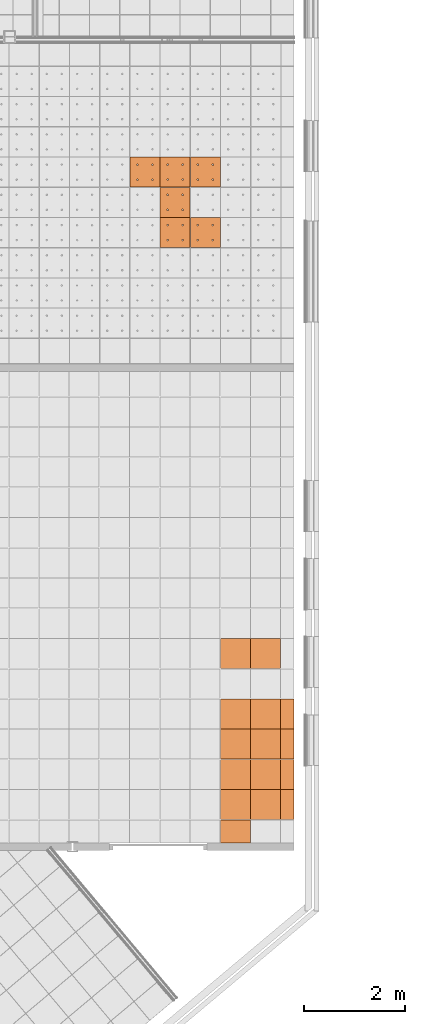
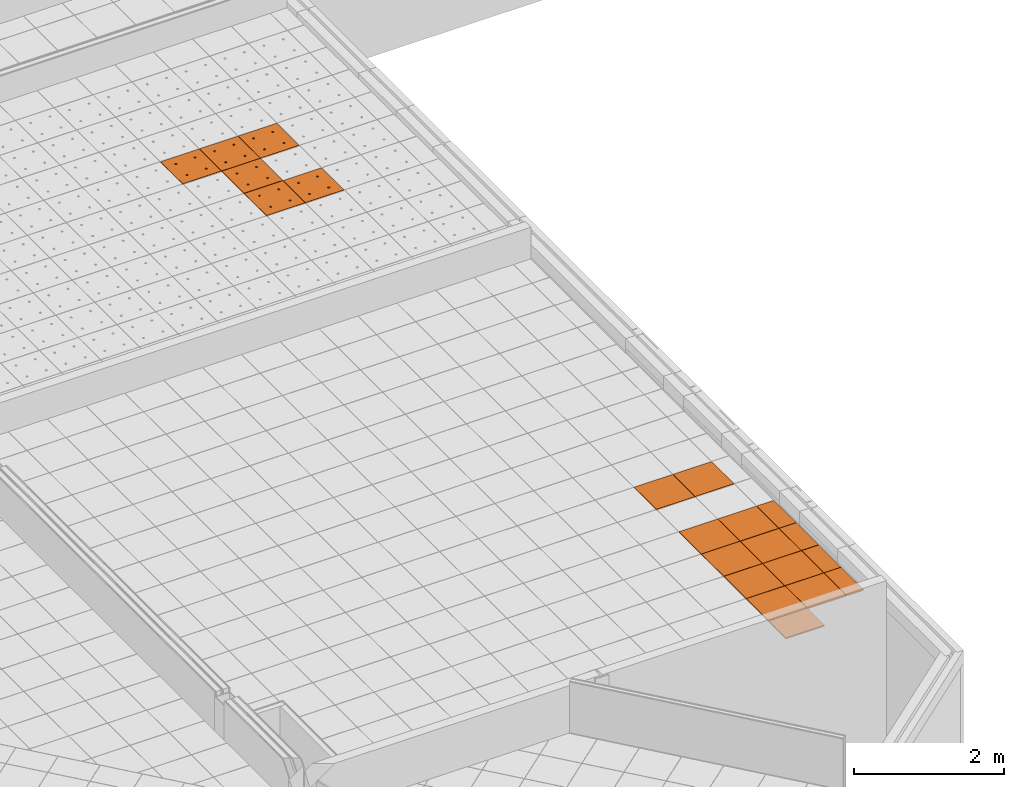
# One storey, part 223 of 338: 21 proxies, 2 elements without a shape of their own.
"""IFC2X3 building model written with IfcOpenShell, lengths in millimetres."""

import ifcopenshell
import ifcopenshell.guid

model = None  # the IFC model being written
_history = None  # IfcOwnerHistory: only IFC2X3 demands one
_inside = {}  # id of a spatial element -> (the spatial element, [elements in it])
_under = {}  # id of a project, library or spatial element -> (it, [spatial elements below it])
_declared = {}  # id of a project -> (the project, [libraries it declares])
_typed = {}  # id of a type object -> (the type object, [elements of that type])
_made_of = {}  # id of a material, layer set ... -> (it, [elements and type objects made of it])


def new_model(schema):
    """Start an empty IFC model of exactly this schema.

    Asked for "IFC4X3", IfcOpenShell would pick the latest addendum, in which some entities
    have other attributes; the version numbers below select the first issue.
    IFC2X3 requires an IfcOwnerHistory on every rooted entity: one is made here for all.
    """
    global model, _history
    if schema == "IFC4X3":
        model = ifcopenshell.file(schema_version=(4, 3, 0, 0))
    else:
        model = ifcopenshell.file(schema=schema)
    _inside.clear()
    _under.clear()
    _declared.clear()
    _typed.clear()
    _made_of.clear()
    _history = None
    if model.schema == "IFC2X3":
        org = make("IfcOrganization", Name="unknown")
        user = make(
            "IfcPersonAndOrganization",
            ThePerson=make("IfcPerson", FamilyName="unknown"),
            TheOrganization=org,
        )
        app = make(
            "IfcApplication",
            ApplicationDeveloper=org,
            Version="unknown",
            ApplicationFullName="unknown",
            ApplicationIdentifier="unknown",
        )
        _history = make(
            "IfcOwnerHistory",
            OwningUser=user,
            OwningApplication=app,
            ChangeAction="ADDED",
            CreationDate=0,
        )
    return model


def make(cls, **values):
    """One entity of the class cls with the attributes given. An attribute that is None is left unset."""
    return model.create_entity(
        cls, **{name: value for name, value in values.items() if value is not None}
    )


def entity(cls, *values):
    """Any entity or typed value of the class cls, its attributes in the order of the schema. None: left unset."""
    e = model.create_entity(cls)
    for i, value in enumerate(values):
        if value is not None:
            e[i] = value
    return e


def rooted(cls, **values):
    """An entity with a GlobalId (a new one), such as an element, a storey or a relation."""
    return make(cls, GlobalId=ifcopenshell.guid.new(), OwnerHistory=_history, **values)


def si_unit(unit_type, name, prefix=None):
    """IfcSIUnit, for example si_unit("LENGTHUNIT", "METRE", prefix="MILLI")."""
    return make("IfcSIUnit", UnitType=unit_type, Prefix=prefix, Name=name)


def converted_unit(unit_type, name, factor, base, dimensions=None, offset=None):
    """IfcConversionBasedUnit, such as the inch: factor (a typed value) times the base unit."""
    return make(
        "IfcConversionBasedUnit"
        if offset is None
        else "IfcConversionBasedUnitWithOffset",
        ConversionOffset=offset,
        Dimensions=None
        if dimensions is None
        else entity("IfcDimensionalExponents", *dimensions),
        UnitType=unit_type,
        Name=name,
        ConversionFactor=make(
            "IfcMeasureWithUnit", ValueComponent=factor, UnitComponent=base
        ),
    )


def derived_unit(unit_type, elements):
    """IfcDerivedUnit: a product of units, each with its exponent."""
    return make(
        "IfcDerivedUnit",
        Elements=[
            make("IfcDerivedUnitElement", Unit=unit, Exponent=power)
            for unit, power in elements
        ],
        UnitType=unit_type,
    )


def money_unit(currency):
    """IfcMonetaryUnit."""
    return make("IfcMonetaryUnit", Currency=currency)


def assignment(units):
    """IfcUnitAssignment: the units of a project."""
    return None if units is None else make("IfcUnitAssignment", Units=units)


def point(xyz):
    """IfcCartesianPoint."""
    return None if xyz is None else make("IfcCartesianPoint", Coordinates=xyz)


def direction(xyz):
    """IfcDirection."""
    return None if xyz is None else make("IfcDirection", DirectionRatios=xyz)


def frame(location, z_axis=None, x_axis=None):
    """IfcAxis2Placement3D, a coordinate frame: its origin and axes. An axis left out is left unset."""
    return make(
        "IfcAxis2Placement3D",
        Location=point(location),
        Axis=direction(z_axis),
        RefDirection=direction(x_axis),
    )


def origin_with_axes():
    """The frame at (0, 0, 0) with the z axis (0, 0, 1) and the x axis (1, 0, 0) written out."""
    return frame((0.0, 0.0, 0.0), z_axis=(0.0, 0.0, 1.0), x_axis=(1.0, 0.0, 0.0))


def place(relative_to, where):
    """IfcLocalPlacement: puts the frame where relative to a parent placement (None: the world)."""
    return make(
        "IfcLocalPlacement", PlacementRelTo=relative_to, RelativePlacement=where
    )


def context(
    kind, dimensions, precision=None, world=None, true_north=None, identifier=None
):
    """IfcGeometricRepresentationContext, for example the 3D "Model" context."""
    return make(
        "IfcGeometricRepresentationContext",
        ContextIdentifier=identifier,
        ContextType=kind,
        CoordinateSpaceDimension=dimensions,
        Precision=precision,
        WorldCoordinateSystem=world,
        TrueNorth=true_north,
    )


def subcontext(parent, identifier, kind, view, scale=None):
    """IfcGeometricRepresentationSubContext, for example "Body" below "Model"."""
    return make(
        "IfcGeometricRepresentationSubContext",
        ContextIdentifier=identifier,
        ContextType=kind,
        ParentContext=parent,
        TargetScale=scale,
        TargetView=view,
    )


def project(units=None, contexts=None):
    """IfcProject with its units and contexts."""
    return rooted(
        "IfcProject",
        Name="project",
        RepresentationContexts=contexts,
        UnitsInContext=assignment(units),
    )


def spatial(cls, under=None, at=None, **own):
    """A site, building, storey or space (cls), placed at a placement, below another one or the project."""
    s = rooted(cls, ObjectPlacement=at, **own)
    if under is not None:
        _under.setdefault(under.id(), (under, []))[1].append(s)
    return s


def faces_of(points, faces, orient=None, outer=None):
    """IfcFace entities. A face is a list of loops; a loop is a list of indices into points, from 0.

    orient and outer hold one flag for each loop. By default every Orientation is true, the
    first loop of a face is its IfcFaceOuterBound and the others are IfcFaceBound.
    """
    made = []
    for i, loops in enumerate(faces):
        bounds = []
        for j, loop in enumerate(loops):
            is_outer = j == 0 if outer is None else outer[i][j]
            bounds.append(
                make(
                    "IfcFaceOuterBound" if is_outer else "IfcFaceBound",
                    Bound=make("IfcPolyLoop", Polygon=[points[k] for k in loop]),
                    Orientation=True if orient is None else orient[i][j],
                )
            )
        made.append(make("IfcFace", Bounds=bounds))
    return made


def faceted_brep(points, faces, orient=None, outer=None, voids=None):
    """IfcFacetedBrep: a solid bounded by flat faces; with voids (closed shells), ...WithVoids."""
    shared = [point(p) for p in points]
    hull = make("IfcClosedShell", CfsFaces=faces_of(shared, faces, orient, outer))
    if voids is None:
        return make("IfcFacetedBrep", Outer=hull)
    return make(
        "IfcFacetedBrepWithVoids",
        Outer=hull,
        Voids=[
            make(cls, CfsFaces=faces_of(shared, fs, o, b)) for cls, fs, o, b in voids
        ],
    )


def shape(context_of_items, identifier, shape_type, items):
    """IfcShapeRepresentation: the items that make up one representation, for example the "Body"."""
    return make(
        "IfcShapeRepresentation",
        ContextOfItems=context_of_items,
        RepresentationIdentifier=identifier,
        RepresentationType=shape_type,
        Items=items,
    )


def source(mapping_origin, context_of_items, identifier, shape_type, items):
    """IfcRepresentationMap: a shape defined once, which mapped items show again and again."""
    return make(
        "IfcRepresentationMap",
        MappingOrigin=mapping_origin,
        MappedRepresentation=shape(context_of_items, identifier, shape_type, items),
    )


def transform(
    local_origin,
    x_axis=None,
    y_axis=None,
    z_axis=None,
    scale=None,
    scale2=None,
    scale3=None,
    uniform=True,
):
    """IfcCartesianTransformationOperator3D, or its non-uniform kind. x_axis, y_axis, z_axis: its Axis1, 2, 3."""
    if uniform:
        return make(
            "IfcCartesianTransformationOperator3D",
            Axis1=direction(x_axis),
            Axis2=direction(y_axis),
            LocalOrigin=point(local_origin),
            Scale=scale,
            Axis3=direction(z_axis),
        )
    return make(
        "IfcCartesianTransformationOperator3DnonUniform",
        Axis1=direction(x_axis),
        Axis2=direction(y_axis),
        LocalOrigin=point(local_origin),
        Scale=scale,
        Axis3=direction(z_axis),
        Scale2=scale2,
        Scale3=scale3,
    )


def mapped(mapping_source, mapping_target):
    """IfcMappedItem: shows the shape of a source again, moved by a transform."""
    return make(
        "IfcMappedItem", MappingSource=mapping_source, MappingTarget=mapping_target
    )


def material(Name=None, Category=None):
    """IfcMaterial."""
    return make("IfcMaterial", Name=Name, Category=Category)


def made_of(thing, what):
    """Note that an element or type object is made of a material, layer set ...; save() writes the relation."""
    if what is not None:
        _made_of.setdefault(what.id(), (what, []))[1].append(thing)
    return thing


def type_object(cls, material=None, **own):
    """A type object (cls), such as IfcWallType, which elements share."""
    return made_of(rooted(cls, **own), material)


def type_shapes(of_type, sources):
    """Give a type object the sources (RepresentationMaps) that its elements show as mapped items."""
    of_type.RepresentationMaps = sources


def element(
    cls,
    number,
    at=None,
    inside=None,
    cuts=None,
    type_object=None,
    material=None,
    context=None,
    identifier="Body",
    shape_type=None,
    held_by="IfcProductDefinitionShape",
    body=None,
    shapes=None,
    **own,
):
    """One element of the class cls, such as IfcWall. Its Tag is "e" and its number.

    at: its placement. inside: the storey or other place that contains it. cuts: it is an
    opening in that element (IfcRelVoidsElement). A single representation is given by context,
    identifier, shape_type and body (its items); several are given by shapes. held_by: the class
    of the entity that holds the representations. save() writes the other relations.
    """
    e = rooted(cls, Tag="e%d" % number, ObjectPlacement=at, **own)
    if body is not None:
        shapes = [shape(context, identifier, shape_type, body)]
    if shapes is not None:
        e.Representation = make(held_by, Representations=shapes)
    if inside is not None:
        _inside.setdefault(inside.id(), (inside, []))[1].append(e)
    if cuts is not None:
        rooted(
            "IfcRelVoidsElement", RelatingBuildingElement=cuts, RelatedOpeningElement=e
        )
    if type_object is not None:
        _typed.setdefault(type_object.id(), (type_object, []))[1].append(e)
    return made_of(e, material)


def aggregate(whole, parts):
    """IfcRelAggregates: a whole, such as a stair, and the parts it consists of."""
    return rooted("IfcRelAggregates", RelatingObject=whole, RelatedObjects=parts)


def save(model, path):
    """Write the relations noted so far, then the file.

    IfcRelAggregates (storeys below a building ...), IfcRelContainedInSpatialStructure (elements
    in a storey), IfcRelDefinesByType, IfcRelAssociatesMaterial and IfcRelDeclares: one each for
    every whole, place, type object, material and project.
    """
    for whole, parts in _under.values():
        aggregate(whole, parts)
    for where, things in _inside.values():
        rooted(
            "IfcRelContainedInSpatialStructure",
            RelatedElements=things,
            RelatingStructure=where,
        )
    for kind, things in _typed.values():
        rooted("IfcRelDefinesByType", RelatedObjects=things, RelatingType=kind)
    for what, things in _made_of.values():
        rooted("IfcRelAssociatesMaterial", RelatedObjects=things, RelatingMaterial=what)
    for by, libraries in _declared.values():
        rooted("IfcRelDeclares", RelatingContext=by, RelatedDefinitions=libraries)
    model.write(path)


model = new_model("IFC2X3")

# Units and contexts
model_context = context("Model", 3, precision=0.01, world=origin_with_axes(), true_north=direction((0.0, 1.0)))
plan_context = context("Plan", 3, precision=0.01, world=origin_with_axes(), true_north=direction((0.0, 1.0)))
body_context = subcontext(model_context, "Body", "Model", "MODEL_VIEW")
ifc_project = project(units=[si_unit("LENGTHUNIT", "METRE", prefix="MILLI"), si_unit("AREAUNIT", "SQUARE_METRE"), si_unit("VOLUMEUNIT", "CUBIC_METRE"), converted_unit("PLANEANGLEUNIT", "DEGREE", entity("IfcPlaneAngleMeasure", 0.0174532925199), si_unit("PLANEANGLEUNIT", "RADIAN"), dimensions=[0, 0, 0, 0, 0, 0, 0]), money_unit("EUR"), converted_unit("TIMEUNIT", "Year", entity("IfcTimeMeasure", 31556926.0), si_unit("TIMEUNIT", "SECOND"), dimensions=[0, 0, 1, 0, 0, 0, 0]), si_unit("MASSUNIT", "GRAM", prefix="KILO"), si_unit("THERMODYNAMICTEMPERATUREUNIT", "DEGREE_CELSIUS"), si_unit("LUMINOUSINTENSITYUNIT", "LUMEN"), si_unit("ENERGYUNIT", "JOULE", prefix="MEGA"), derived_unit("THERMALCONDUCTANCEUNIT", [(si_unit("POWERUNIT", "WATT"), 1), (si_unit("LENGTHUNIT", "METRE"), -1), (si_unit("THERMODYNAMICTEMPERATUREUNIT", "KELVIN"), -1)]), derived_unit("SPECIFICHEATCAPACITYUNIT", [(si_unit("ENERGYUNIT", "JOULE"), 1), (si_unit("MASSUNIT", "GRAM", prefix="KILO"), -1), (si_unit("THERMODYNAMICTEMPERATUREUNIT", "KELVIN"), -1)]), derived_unit("MASSDENSITYUNIT", [(si_unit("MASSUNIT", "GRAM", prefix="KILO"), 1), (si_unit("VOLUMEUNIT", "CUBIC_METRE"), -1)])], contexts=[model_context, plan_context])

# Site, building, storey
site_placement = place(None, origin_with_axes())
site = spatial("IfcSite", under=ifc_project, at=site_placement, Name="Fortuinstraat Woensdrecht", CompositionType="ELEMENT")
building_placement = place(site_placement, origin_with_axes())
building = spatial("IfcBuilding", under=site, at=building_placement, Name="IKC Fortuna", CompositionType="ELEMENT")
storey_placement = place(building_placement, origin_with_axes())
storey = spatial("IfcBuildingStorey", under=building, at=storey_placement, Name="00 begane grond", CompositionType="ELEMENT", Elevation=0.0)

# Covering, proxies
covering_type = type_object("IfcCoveringType", Name="Curtain Wall Type", PredefinedType="CEILING")
covering_1_placement = place(storey_placement, frame((34484.9342671, 3789.29664615, 3065.0), z_axis=(0.0, 0.0, 1.0), x_axis=(1.0, 0.0, 0.0)))
covering_1 = element("IfcCovering", 1, at=covering_1_placement, inside=storey, type_object=covering_type, Name="45_Plafondafwerking_P02 gec", PredefinedType="CEILING")
ifc_material = material(Name="Gipsplaat")
building_element_proxy_type_1 = type_object("IfcBuildingElementProxyType", Name="Distinct Panel 600 x 600 x 20", PredefinedType="NOTDEFINED")
shared_shape_1 = source(origin_with_axes(), body_context, "Body", "Brep", [
    faceted_brep([(-2.49999999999, 2.5, -10.0), (-2.49999999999, 2.5, 10.0), (-597.5, 2.49999999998, 10.0), (-597.5, 2.49999999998, -10.0), (-2.50000000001, 597.5, -10.0), (-2.50000000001, 597.5, 10.0), (-597.5, 597.5, 10.0), (-597.5, 597.5, -10.0)], [[[0, 1, 2, 3]], [[4, 5, 1, 0]], [[1, 5, 6, 2]], [[3, 2, 6, 7]], [[0, 3, 7, 4]], [[7, 6, 5, 4]]]),
])
proxy_1_placement = place(covering_1_placement, frame((-1034.49272604, -1200.0, 2.54019028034e-10), z_axis=(0.0, 0.0, 1.0), x_axis=(1.0, 0.0, 0.0)))
proxy_1 = element("IfcBuildingElementProxy", 2, at=proxy_1_placement, type_object=building_element_proxy_type_1, material=ifc_material, Name="__Panel-D", context=body_context, shape_type="MappedRepresentation", body=[
    mapped(shared_shape_1, transform((-300.0, 300.0, 0.0), x_axis=(-1.0, 0.0, 0.0), y_axis=(0.0, -1.0, 0.0), z_axis=(0.0, 0.0, 1.0))),
])
proxy_2_placement = place(covering_1_placement, frame((-1034.49272604, -600.0, 2.54019028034e-10), z_axis=(0.0, 0.0, 1.0), x_axis=(1.0, 0.0, 0.0)))
proxy_2 = element("IfcBuildingElementProxy", 3, at=proxy_2_placement, type_object=building_element_proxy_type_1, material=ifc_material, Name="__Panel-D", context=body_context, shape_type="MappedRepresentation", body=[
    mapped(shared_shape_1, transform((-300.0, 300.0, 0.0), x_axis=(-1.0, 0.0, 0.0), y_axis=(0.0, -1.0, 0.0), z_axis=(0.0, 0.0, 1.0))),
])
proxy_3_placement = place(covering_1_placement, frame((-1034.49272604, 1800.0, 2.54019028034e-10), z_axis=(0.0, 0.0, 1.0), x_axis=(1.0, 0.0, 0.0)))
proxy_3 = element("IfcBuildingElementProxy", 4, at=proxy_3_placement, type_object=building_element_proxy_type_1, material=ifc_material, Name="__Panel-D", context=body_context, shape_type="MappedRepresentation", body=[
    mapped(shared_shape_1, transform((-300.0, 300.0, 0.0), x_axis=(-1.0, 0.0, 0.0), y_axis=(0.0, -1.0, 0.0), z_axis=(0.0, 0.0, 1.0))),
])
proxy_4_placement = place(covering_1_placement, frame((-1034.49272604, 600.0, 2.54019028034e-10), z_axis=(0.0, 0.0, 1.0), x_axis=(1.0, 0.0, 0.0)))
proxy_4 = element("IfcBuildingElementProxy", 5, at=proxy_4_placement, type_object=building_element_proxy_type_1, material=ifc_material, Name="__Panel-D", context=body_context, shape_type="MappedRepresentation", body=[
    mapped(shared_shape_1, transform((-300.0, 300.0, 0.0), x_axis=(-1.0, 0.0, 0.0), y_axis=(0.0, -1.0, 0.0), z_axis=(0.0, 0.0, 1.0))),
])
proxy_5_placement = place(covering_1_placement, frame((-1034.49272604, 0.0, 2.54019028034e-10), z_axis=(0.0, 0.0, 1.0), x_axis=(1.0, 0.0, 0.0)))
proxy_5 = element("IfcBuildingElementProxy", 6, at=proxy_5_placement, type_object=building_element_proxy_type_1, material=ifc_material, Name="__Panel-D", context=body_context, shape_type="MappedRepresentation", body=[
    mapped(shared_shape_1, transform((-300.0, 300.0, 0.0), x_axis=(-1.0, 0.0, 0.0), y_axis=(0.0, -1.0, 0.0), z_axis=(0.0, 0.0, 1.0))),
])
building_element_proxy_type_2 = type_object("IfcBuildingElementProxyType", Name="Distinct Panel 269 x 600 x 20", PredefinedType="NOTDEFINED")
shared_shape_2 = source(origin_with_axes(), body_context, "Body", "Brep", [
    faceted_brep([(-2.49999861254, 2.5, -10.0), (-2.49999861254, 2.5, 10.0), (-266.485452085, 2.49999999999, 10.0), (-266.485452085, 2.49999999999, -10.0), (-2.49999861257, 597.5, -10.0), (-2.49999861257, 597.5, 10.0), (-266.485452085, 597.5, 10.0), (-266.485452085, 597.5, -10.0)], [[[0, 1, 2, 3]], [[4, 5, 1, 0]], [[1, 5, 6, 2]], [[3, 2, 6, 7]], [[0, 3, 7, 4]], [[7, 6, 5, 4]]]),
])
type_shapes(building_element_proxy_type_2, [shared_shape_2])
proxy_6_placement = place(covering_1_placement, frame((0.0, 0.0, 2.87325718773e-10), z_axis=(0.0, 0.0, 1.0), x_axis=(1.0, 0.0, 0.0)))
proxy_6 = element("IfcBuildingElementProxy", 7, at=proxy_6_placement, type_object=building_element_proxy_type_2, material=ifc_material, Name="__Panel-D", context=body_context, shape_type="MappedRepresentation", body=[
    mapped(shared_shape_2, transform((-134.492726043, 300.0, 0.0), x_axis=(-1.0, 0.0, 0.0), y_axis=(0.0, -1.0, 0.0), z_axis=(0.0, 0.0, 1.0))),
])
proxy_7_placement = place(covering_1_placement, frame((9.42758049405e-06, -1200.0, 2.87325718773e-10), z_axis=(0.0, 0.0, 1.0), x_axis=(1.0, 0.0, 0.0)))
proxy_7 = element("IfcBuildingElementProxy", 8, at=proxy_7_placement, type_object=building_element_proxy_type_2, material=ifc_material, Name="__Panel-D", context=body_context, shape_type="MappedRepresentation", body=[
    mapped(shared_shape_2, transform((-134.49273547, 300.0, 0.0), x_axis=(-1.0, 0.0, 0.0), y_axis=(0.0, -1.0, 0.0), z_axis=(0.0, 0.0, 1.0))),
])
proxy_8_placement = place(covering_1_placement, frame((0.0, -600.0, 2.87325718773e-10), z_axis=(0.0, 0.0, 1.0), x_axis=(1.0, 0.0, 0.0)))
proxy_8 = element("IfcBuildingElementProxy", 9, at=proxy_8_placement, type_object=building_element_proxy_type_2, material=ifc_material, Name="__Panel-D", context=body_context, shape_type="MappedRepresentation", body=[
    mapped(shared_shape_2, transform((-134.492726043, 300.0, 0.0), x_axis=(-1.0, 0.0, 0.0), y_axis=(0.0, -1.0, 0.0), z_axis=(0.0, 0.0, 1.0))),
])
proxy_9_placement = place(covering_1_placement, frame((0.0, 600.0, 2.87325718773e-10), z_axis=(0.0, 0.0, 1.0), x_axis=(1.0, 0.0, 0.0)))
proxy_9 = element("IfcBuildingElementProxy", 10, at=proxy_9_placement, type_object=building_element_proxy_type_2, material=ifc_material, Name="__Panel-D", context=body_context, shape_type="MappedRepresentation", body=[
    mapped(shared_shape_2, transform((-134.492726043, 300.0, 0.0), x_axis=(-1.0, 0.0, 0.0), y_axis=(0.0, -1.0, 0.0), z_axis=(0.0, 0.0, 1.0))),
])
building_element_proxy_type_3 = type_object("IfcBuildingElementProxyType", Name="Distinct Panel 600 x 462 x 20", PredefinedType="NOTDEFINED")
shared_shape_3 = source(origin_with_axes(), body_context, "Body", "Brep", [
    faceted_brep([(-2.49999999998, 2.49999724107, -10.0), (-2.49999999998, 2.49999724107, 10.0), (-597.5, 2.49999724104, 10.0), (-597.5, 2.49999724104, -10.0), (-2.5, 459.49870978, -10.0), (-2.5, 459.49870978, 10.0), (-597.5, 459.499416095, 10.0), (-597.5, 459.499416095, -10.0)], [[[0, 1, 2, 3]], [[4, 5, 1, 0]], [[1, 5, 6, 2]], [[3, 2, 6, 7]], [[0, 3, 7, 4]], [[7, 6, 5, 4]]]),
])
type_shapes(building_element_proxy_type_3, [shared_shape_3])
proxy_10_placement = place(covering_1_placement, frame((-1034.49272604, -1730.99953104, 2.54019028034e-10), z_axis=(0.0, 0.0, 1.0), x_axis=(1.0, 0.0, 0.0)))
proxy_10 = element("IfcBuildingElementProxy", 11, at=proxy_10_placement, type_object=building_element_proxy_type_3, material=ifc_material, Name="__Panel-D", context=body_context, shape_type="MappedRepresentation", body=[
    mapped(shared_shape_3, transform((-300.0, 230.99953104, 0.0), x_axis=(-1.0, 0.0, 0.0), y_axis=(0.0, -1.0, 0.0), z_axis=(0.0, 0.0, 1.0))),
])
shared_shape_4 = source(origin_with_axes(), body_context, "Body", "Brep", [
    faceted_brep([(-2.50000185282, 2.50000514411, -10.0), (-2.50000185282, 2.50000514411, 10.0), (-597.499994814, 2.50000188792, 10.0), (-597.499994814, 2.50000188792, -10.0), (-2.50000510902, 597.499998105, -10.0), (-2.50000510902, 597.499998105, 10.0), (-597.49998844, 597.50000293, 10.0), (-597.49998844, 597.50000293, -10.0)], [[[0, 1, 2, 3]], [[4, 5, 1, 0]], [[1, 5, 6, 2]], [[3, 2, 6, 7]], [[0, 3, 7, 4]], [[7, 6, 5, 4]]]),
])
proxy_11_placement = place(covering_1_placement, frame((-434.492726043, -1200.0, 2.73558953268e-10), z_axis=(0.0, 0.0, 1.0), x_axis=(1.0, 0.0, 0.0)))
proxy_11 = element("IfcBuildingElementProxy", 12, at=proxy_11_placement, type_object=building_element_proxy_type_1, material=ifc_material, Name="__Panel-D", context=body_context, shape_type="MappedRepresentation", body=[
    mapped(shared_shape_4, transform((-300.0, 300.0, 0.0), x_axis=(-1.0, 0.0, 0.0), y_axis=(0.0, -1.0, 0.0), z_axis=(0.0, 0.0, 1.0))),
])
proxy_12_placement = place(covering_1_placement, frame((-434.492726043, -600.0, 2.73558953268e-10), z_axis=(0.0, 0.0, 1.0), x_axis=(1.0, 0.0, 0.0)))
proxy_12 = element("IfcBuildingElementProxy", 13, at=proxy_12_placement, type_object=building_element_proxy_type_1, material=ifc_material, Name="__Panel-D", context=body_context, shape_type="MappedRepresentation", body=[
    mapped(shared_shape_4, transform((-300.0, 300.0, 0.0), x_axis=(-1.0, 0.0, 0.0), y_axis=(0.0, -1.0, 0.0), z_axis=(0.0, 0.0, 1.0))),
])
shared_shape_5 = source(origin_with_axes(), body_context, "Body", "Brep", [
    faceted_brep([(-2.49999999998, 2.5, -10.0), (-2.49999999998, 2.5, 10.0), (-597.5, 2.49999999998, 10.0), (-597.5, 2.49999999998, -10.0), (-2.50000000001, 597.5, -10.0), (-2.50000000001, 597.5, 10.0), (-597.5, 597.5, 10.0), (-597.5, 597.5, -10.0)], [[[0, 1, 2, 3]], [[4, 5, 1, 0]], [[1, 5, 6, 2]], [[3, 2, 6, 7]], [[0, 3, 7, 4]], [[7, 6, 5, 4]]]),
])
type_shapes(building_element_proxy_type_1, [shared_shape_1, shared_shape_4, shared_shape_5])
proxy_13_placement = place(covering_1_placement, frame((-434.492726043, 1800.0, 2.73114864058e-10), z_axis=(0.0, 0.0, 1.0), x_axis=(1.0, 0.0, 0.0)))
proxy_13 = element("IfcBuildingElementProxy", 14, at=proxy_13_placement, type_object=building_element_proxy_type_1, material=ifc_material, Name="__Panel-D", context=body_context, shape_type="MappedRepresentation", body=[
    mapped(shared_shape_5, transform((-300.0, 300.0, 0.0), x_axis=(-1.0, 0.0, 0.0), y_axis=(0.0, -1.0, 0.0), z_axis=(0.0, 0.0, 1.0))),
])
proxy_14_placement = place(covering_1_placement, frame((-434.492726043, 600.0, 2.73114864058e-10), z_axis=(0.0, 0.0, 1.0), x_axis=(1.0, 0.0, 0.0)))
proxy_14 = element("IfcBuildingElementProxy", 15, at=proxy_14_placement, type_object=building_element_proxy_type_1, material=ifc_material, Name="__Panel-D", context=body_context, shape_type="MappedRepresentation", body=[
    mapped(shared_shape_5, transform((-300.0, 300.0, 0.0), x_axis=(-1.0, 0.0, 0.0), y_axis=(0.0, -1.0, 0.0), z_axis=(0.0, 0.0, 1.0))),
])
proxy_15_placement = place(covering_1_placement, frame((-434.492726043, 0.0, 2.73114864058e-10), z_axis=(0.0, 0.0, 1.0), x_axis=(1.0, 0.0, 0.0)))
proxy_15 = element("IfcBuildingElementProxy", 16, at=proxy_15_placement, type_object=building_element_proxy_type_1, material=ifc_material, Name="__Panel-D", context=body_context, shape_type="MappedRepresentation", body=[
    mapped(shared_shape_5, transform((-300.0, 300.0, 0.0), x_axis=(-1.0, 0.0, 0.0), y_axis=(0.0, -1.0, 0.0), z_axis=(0.0, 0.0, 1.0))),
])
aggregate(covering_1, [proxy_6, proxy_10, proxy_1, proxy_11, proxy_12, proxy_2, proxy_3, proxy_13, proxy_4, proxy_5, proxy_14, proxy_15, proxy_7, proxy_8, proxy_9])

covering_2_placement = place(storey_placement, frame((31656.9226967, 15748.5304598, 3210.0), z_axis=(0.0, 0.0, 1.0), x_axis=(1.0, 0.0, 0.0)))
covering_2 = element("IfcCovering", 17, at=covering_2_placement, inside=storey, type_object=covering_type, Name="45_Plafondafwerking_P01", PredefinedType="CEILING")
building_element_proxy_type_4 = type_object("IfcBuildingElementProxyType", Name="Main Panel 600 x 600 x 20", PredefinedType="NOTDEFINED")
shared_shape_6 = source(origin_with_axes(), body_context, "Body", "Brep", [
    faceted_brep([(2.49999999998, 2.49999999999, -10.0), (300.0, 2.49999999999, -10.0), (300.0, 2.49999999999, 10.0), (2.49999999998, 2.49999999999, 10.0), (2.49999999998, 300.0, -10.0), (2.49999999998, 597.5, -10.0), (300.0, 597.5, -10.0), (597.5, 597.5, -10.0), (597.5, 300.0, -10.0), (597.5, 2.49999999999, -10.0), (166.25, 450.06232995, -10.0), (165.79423259, 452.64711538, -10.0), (164.896546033, 455.11348892, -10.0), (163.58421608, 457.38651108, -10.0), (161.897117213, 459.39711721, -10.0), (159.886511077, 461.08421608, -10.0), (157.613488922, 462.39654603, -10.0), (155.147115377, 463.29423259, -10.0), (152.562329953, 463.75, -10.0), (149.937670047, 463.75, -10.0), (147.352884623, 463.29423259, -10.0), (144.886511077, 462.39654603, -10.0), (142.613488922, 461.08421608, -10.0), (140.602882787, 459.39711721, -10.0), (138.91578392, 457.38651108, -10.0), (137.603453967, 455.11348892, -10.0), (136.705767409, 452.64711538, -10.0), (136.25, 450.06232995, -10.0), (136.25, 448.75, -10.0), (136.25, 447.43767005, -10.0), (136.705767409, 444.85288462, -10.0), (137.603453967, 442.38651108, -10.0), (138.91578392, 440.11348892, -10.0), (140.602882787, 438.10288279, -10.0), (142.613488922, 436.41578392, -10.0), (144.886511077, 435.10345397, -10.0), (147.352884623, 434.20576741, -10.0), (149.937670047, 433.75, -10.0), (152.562329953, 433.75, -10.0), (155.147115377, 434.20576741, -10.0), (157.613488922, 435.10345397, -10.0), (159.886511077, 436.41578392, -10.0), (161.897117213, 438.10288279, -10.0), (163.58421608, 440.11348892, -10.0), (164.896546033, 442.38651108, -10.0), (165.79423259, 444.85288462, -10.0), (166.25, 447.43767005, -10.0), (463.75, 450.06232995, -10.0), (463.29423259, 452.64711538, -10.0), (462.396546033, 455.11348892, -10.0), (461.08421608, 457.38651108, -10.0), (459.397117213, 459.39711721, -10.0), (457.386511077, 461.08421608, -10.0), (455.113488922, 462.39654603, -10.0), (452.647115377, 463.29423259, -10.0), (450.062329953, 463.75, -10.0), (447.437670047, 463.75, -10.0), (444.852884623, 463.29423259, -10.0), (442.386511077, 462.39654603, -10.0), (440.113488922, 461.08421608, -10.0), (438.102882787, 459.39711721, -10.0), (436.41578392, 457.38651108, -10.0), (435.103453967, 455.11348892, -10.0), (434.205767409, 452.64711538, -10.0), (433.75, 450.06232995, -10.0), (433.75, 448.75, -10.0), (433.75, 447.43767005, -10.0), (434.205767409, 444.85288462, -10.0), (435.103453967, 442.38651108, -10.0), (436.41578392, 440.11348892, -10.0), (438.102882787, 438.10288279, -10.0), (440.113488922, 436.41578392, -10.0), (442.386511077, 435.10345397, -10.0), (444.852884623, 434.20576741, -10.0), (447.437670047, 433.75, -10.0), (450.062329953, 433.75, -10.0), (452.647115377, 434.20576741, -10.0), (455.113488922, 435.10345397, -10.0), (457.386511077, 436.41578392, -10.0), (459.397117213, 438.10288279, -10.0), (461.08421608, 440.11348892, -10.0), (462.396546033, 442.38651108, -10.0), (463.29423259, 444.85288462, -10.0), (463.75, 447.43767005, -10.0), (463.75, 152.56232995, -10.0), (463.29423259, 155.14711538, -10.0), (462.396546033, 157.61348892, -10.0), (461.08421608, 159.88651108, -10.0), (459.397117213, 161.89711721, -10.0), (457.386511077, 163.58421608, -10.0), (455.113488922, 164.89654603, -10.0), (452.647115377, 165.79423259, -10.0), (450.062329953, 166.25, -10.0), (447.437670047, 166.25, -10.0), (444.852884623, 165.79423259, -10.0), (442.386511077, 164.89654603, -10.0), (440.113488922, 163.58421608, -10.0), (438.102882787, 161.89711721, -10.0), (436.41578392, 159.88651108, -10.0), (435.103453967, 157.61348892, -10.0), (434.205767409, 155.14711538, -10.0), (433.75, 152.56232995, -10.0), (433.75, 151.25, -10.0), (433.75, 149.93767005, -10.0), (434.205767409, 147.35288462, -10.0), (435.103453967, 144.88651108, -10.0), (436.41578392, 142.61348892, -10.0), (438.102882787, 140.60288279, -10.0), (440.113488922, 138.91578392, -10.0), (442.386511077, 137.60345397, -10.0), (444.852884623, 136.70576741, -10.0), (447.437670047, 136.25, -10.0), (450.062329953, 136.25, -10.0), (452.647115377, 136.70576741, -10.0), (455.113488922, 137.60345397, -10.0), (457.386511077, 138.91578392, -10.0), (459.397117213, 140.60288279, -10.0), (461.08421608, 142.61348892, -10.0), (462.396546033, 144.88651108, -10.0), (463.29423259, 147.35288462, -10.0), (463.75, 149.93767005, -10.0), (166.25, 152.56232995, -10.0), (165.79423259, 155.14711538, -10.0), (164.896546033, 157.61348892, -10.0), (163.58421608, 159.88651108, -10.0), (161.897117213, 161.89711721, -10.0), (159.886511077, 163.58421608, -10.0), (157.613488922, 164.89654603, -10.0), (155.147115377, 165.79423259, -10.0), (152.562329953, 166.25, -10.0), (149.937670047, 166.25, -10.0), (147.352884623, 165.79423259, -10.0), (144.886511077, 164.89654603, -10.0), (142.613488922, 163.58421608, -10.0), (140.602882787, 161.89711721, -10.0), (138.91578392, 159.88651108, -10.0), (137.603453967, 157.61348892, -10.0), (136.705767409, 155.14711538, -10.0), (136.25, 152.56232995, -10.0), (136.25, 151.25, -10.0), (136.25, 149.93767005, -10.0), (136.705767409, 147.35288462, -10.0), (137.603453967, 144.88651108, -10.0), (138.91578392, 142.61348892, -10.0), (140.602882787, 140.60288279, -10.0), (142.613488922, 138.91578392, -10.0), (144.886511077, 137.60345397, -10.0), (147.352884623, 136.70576741, -10.0), (149.937670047, 136.25, -10.0), (152.562329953, 136.25, -10.0), (155.147115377, 136.70576741, -10.0), (157.613488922, 137.60345397, -10.0), (159.886511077, 138.91578392, -10.0), (161.897117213, 140.60288279, -10.0), (163.58421608, 142.61348892, -10.0), (164.896546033, 144.88651108, -10.0), (165.79423259, 147.35288462, -10.0), (166.25, 149.93767005, -10.0), (597.5, 2.49999999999, 10.0), (597.5, 300.0, 10.0), (597.5, 597.5, 10.0), (300.0, 597.5, 10.0), (2.49999999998, 597.5, 10.0), (2.49999999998, 300.0, 10.0), (166.25, 450.06232995, 10.0), (166.25, 447.43767005, 10.0), (165.79423259, 444.85288462, 10.0), (164.896546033, 442.38651108, 10.0), (163.58421608, 440.11348892, 10.0), (161.897117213, 438.10288279, 10.0), (159.886511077, 436.41578392, 10.0), (157.613488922, 435.10345397, 10.0), (155.147115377, 434.20576741, 10.0), (152.562329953, 433.75, 10.0), (149.937670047, 433.75, 10.0), (147.352884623, 434.20576741, 10.0), (144.886511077, 435.10345397, 10.0), (142.613488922, 436.41578392, 10.0), (140.602882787, 438.10288279, 10.0), (138.91578392, 440.11348892, 10.0), (137.603453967, 442.38651108, 10.0), (136.705767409, 444.85288462, 10.0), (136.25, 447.43767005, 10.0), (136.25, 448.75, 10.0), (136.25, 450.06232995, 10.0), (136.705767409, 452.64711538, 10.0), (137.603453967, 455.11348892, 10.0), (138.91578392, 457.38651108, 10.0), (140.602882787, 459.39711721, 10.0), (142.613488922, 461.08421608, 10.0), (144.886511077, 462.39654603, 10.0), (147.352884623, 463.29423259, 10.0), (149.937670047, 463.75, 10.0), (152.562329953, 463.75, 10.0), (155.147115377, 463.29423259, 10.0), (157.613488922, 462.39654603, 10.0), (159.886511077, 461.08421608, 10.0), (161.897117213, 459.39711721, 10.0), (163.58421608, 457.38651108, 10.0), (164.896546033, 455.11348892, 10.0), (165.79423259, 452.64711538, 10.0), (463.75, 450.06232995, 10.0), (463.75, 447.43767005, 10.0), (463.29423259, 444.85288462, 10.0), (462.396546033, 442.38651108, 10.0), (461.08421608, 440.11348892, 10.0), (459.397117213, 438.10288279, 10.0), (457.386511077, 436.41578392, 10.0), (455.113488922, 435.10345397, 10.0), (452.647115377, 434.20576741, 10.0), (450.062329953, 433.75, 10.0), (447.437670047, 433.75, 10.0), (444.852884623, 434.20576741, 10.0), (442.386511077, 435.10345397, 10.0), (440.113488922, 436.41578392, 10.0), (438.102882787, 438.10288279, 10.0), (436.41578392, 440.11348892, 10.0), (435.103453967, 442.38651108, 10.0), (434.205767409, 444.85288462, 10.0), (433.75, 447.43767005, 10.0), (433.75, 448.75, 10.0), (433.75, 450.06232995, 10.0), (434.205767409, 452.64711538, 10.0), (435.103453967, 455.11348892, 10.0), (436.41578392, 457.38651108, 10.0), (438.102882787, 459.39711721, 10.0), (440.113488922, 461.08421608, 10.0), (442.386511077, 462.39654603, 10.0), (444.852884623, 463.29423259, 10.0), (447.437670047, 463.75, 10.0), (450.062329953, 463.75, 10.0), (452.647115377, 463.29423259, 10.0), (455.113488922, 462.39654603, 10.0), (457.386511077, 461.08421608, 10.0), (459.397117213, 459.39711721, 10.0), (461.08421608, 457.38651108, 10.0), (462.396546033, 455.11348892, 10.0), (463.29423259, 452.64711538, 10.0), (463.75, 152.56232995, 10.0), (463.75, 149.93767005, 10.0), (463.29423259, 147.35288462, 10.0), (462.396546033, 144.88651108, 10.0), (461.08421608, 142.61348892, 10.0), (459.397117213, 140.60288279, 10.0), (457.386511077, 138.91578392, 10.0), (455.113488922, 137.60345397, 10.0), (452.647115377, 136.70576741, 10.0), (450.062329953, 136.25, 10.0), (447.437670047, 136.25, 10.0), (444.852884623, 136.70576741, 10.0), (442.386511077, 137.60345397, 10.0), (440.113488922, 138.91578392, 10.0), (438.102882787, 140.60288279, 10.0), (436.41578392, 142.61348892, 10.0), (435.103453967, 144.88651108, 10.0), (434.205767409, 147.35288462, 10.0), (433.75, 149.93767005, 10.0), (433.75, 151.25, 10.0), (433.75, 152.56232995, 10.0), (434.205767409, 155.14711538, 10.0), (435.103453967, 157.61348892, 10.0), (436.41578392, 159.88651108, 10.0), (438.102882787, 161.89711721, 10.0), (440.113488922, 163.58421608, 10.0), (442.386511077, 164.89654603, 10.0), (444.852884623, 165.79423259, 10.0), (447.437670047, 166.25, 10.0), (450.062329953, 166.25, 10.0), (452.647115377, 165.79423259, 10.0), (455.113488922, 164.89654603, 10.0), (457.386511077, 163.58421608, 10.0), (459.397117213, 161.89711721, 10.0), (461.08421608, 159.88651108, 10.0), (462.396546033, 157.61348892, 10.0), (463.29423259, 155.14711538, 10.0), (166.25, 152.56232995, 10.0), (166.25, 149.93767005, 10.0), (165.79423259, 147.35288462, 10.0), (164.896546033, 144.88651108, 10.0), (163.58421608, 142.61348892, 10.0), (161.897117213, 140.60288279, 10.0), (159.886511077, 138.91578392, 10.0), (157.613488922, 137.60345397, 10.0), (155.147115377, 136.70576741, 10.0), (152.562329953, 136.25, 10.0), (149.937670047, 136.25, 10.0), (147.352884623, 136.70576741, 10.0), (144.886511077, 137.60345397, 10.0), (142.613488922, 138.91578392, 10.0), (140.602882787, 140.60288279, 10.0), (138.91578392, 142.61348892, 10.0), (137.603453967, 144.88651108, 10.0), (136.705767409, 147.35288462, 10.0), (136.25, 149.93767005, 10.0), (136.25, 151.25, 10.0), (136.25, 152.56232995, 10.0), (136.705767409, 155.14711538, 10.0), (137.603453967, 157.61348892, 10.0), (138.91578392, 159.88651108, 10.0), (140.602882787, 161.89711721, 10.0), (142.613488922, 163.58421608, 10.0), (144.886511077, 164.89654603, 10.0), (147.352884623, 165.79423259, 10.0), (149.937670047, 166.25, 10.0), (152.562329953, 166.25, 10.0), (155.147115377, 165.79423259, 10.0), (157.613488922, 164.89654603, 10.0), (159.886511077, 163.58421608, 10.0), (161.897117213, 161.89711721, 10.0), (163.58421608, 159.88651108, 10.0), (164.896546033, 157.61348892, 10.0), (165.79423259, 155.14711538, 10.0)], [[[0, 1, 2, 3]], [[0, 4, 5, 6, 7, 8, 9, 1], [10, 11, 12, 13, 14, 15, 16, 17, 18, 19, 20, 21, 22, 23, 24, 25, 26, 27, 28, 29, 30, 31, 32, 33, 34, 35, 36, 37, 38, 39, 40, 41, 42, 43, 44, 45, 46], [47, 48, 49, 50, 51, 52, 53, 54, 55, 56, 57, 58, 59, 60, 61, 62, 63, 64, 65, 66, 67, 68, 69, 70, 71, 72, 73, 74, 75, 76, 77, 78, 79, 80, 81, 82, 83], [84, 85, 86, 87, 88, 89, 90, 91, 92, 93, 94, 95, 96, 97, 98, 99, 100, 101, 102, 103, 104, 105, 106, 107, 108, 109, 110, 111, 112, 113, 114, 115, 116, 117, 118, 119, 120], [121, 122, 123, 124, 125, 126, 127, 128, 129, 130, 131, 132, 133, 134, 135, 136, 137, 138, 139, 140, 141, 142, 143, 144, 145, 146, 147, 148, 149, 150, 151, 152, 153, 154, 155, 156, 157]], [[1, 9, 158, 2]], [[3, 2, 158, 159, 160, 161, 162, 163], [164, 165, 166, 167, 168, 169, 170, 171, 172, 173, 174, 175, 176, 177, 178, 179, 180, 181, 182, 183, 184, 185, 186, 187, 188, 189, 190, 191, 192, 193, 194, 195, 196, 197, 198, 199, 200], [201, 202, 203, 204, 205, 206, 207, 208, 209, 210, 211, 212, 213, 214, 215, 216, 217, 218, 219, 220, 221, 222, 223, 224, 225, 226, 227, 228, 229, 230, 231, 232, 233, 234, 235, 236, 237], [238, 239, 240, 241, 242, 243, 244, 245, 246, 247, 248, 249, 250, 251, 252, 253, 254, 255, 256, 257, 258, 259, 260, 261, 262, 263, 264, 265, 266, 267, 268, 269, 270, 271, 272, 273, 274], [275, 276, 277, 278, 279, 280, 281, 282, 283, 284, 285, 286, 287, 288, 289, 290, 291, 292, 293, 294, 295, 296, 297, 298, 299, 300, 301, 302, 303, 304, 305, 306, 307, 308, 309, 310, 311]], [[4, 0, 3, 163]], [[5, 4, 163, 162]], [[6, 5, 162, 161]], [[7, 6, 161, 160]], [[8, 7, 160, 159]], [[9, 8, 159, 158]], [[11, 10, 164, 200]], [[12, 11, 200, 199]], [[13, 12, 199, 198]], [[14, 13, 198, 197]], [[15, 14, 197, 196]], [[16, 15, 196, 195]], [[17, 16, 195, 194]], [[18, 17, 194, 193]], [[19, 18, 193, 192]], [[20, 19, 192, 191]], [[21, 20, 191, 190]], [[22, 21, 190, 189]], [[23, 22, 189, 188]], [[24, 23, 188, 187]], [[25, 24, 187, 186]], [[26, 25, 186, 185]], [[27, 26, 185, 184]], [[28, 27, 184, 183]], [[29, 28, 183, 182]], [[30, 29, 182, 181]], [[31, 30, 181, 180]], [[32, 31, 180, 179]], [[33, 32, 179, 178]], [[34, 33, 178, 177]], [[35, 34, 177, 176]], [[36, 35, 176, 175]], [[37, 36, 175, 174]], [[38, 37, 174, 173]], [[39, 38, 173, 172]], [[40, 39, 172, 171]], [[41, 40, 171, 170]], [[42, 41, 170, 169]], [[43, 42, 169, 168]], [[44, 43, 168, 167]], [[45, 44, 167, 166]], [[46, 45, 166, 165]], [[10, 46, 165, 164]], [[48, 47, 201, 237]], [[49, 48, 237, 236]], [[50, 49, 236, 235]], [[51, 50, 235, 234]], [[52, 51, 234, 233]], [[53, 52, 233, 232]], [[54, 53, 232, 231]], [[55, 54, 231, 230]], [[56, 55, 230, 229]], [[57, 56, 229, 228]], [[58, 57, 228, 227]], [[59, 58, 227, 226]], [[60, 59, 226, 225]], [[61, 60, 225, 224]], [[62, 61, 224, 223]], [[63, 62, 223, 222]], [[64, 63, 222, 221]], [[65, 64, 221, 220]], [[66, 65, 220, 219]], [[67, 66, 219, 218]], [[68, 67, 218, 217]], [[69, 68, 217, 216]], [[70, 69, 216, 215]], [[71, 70, 215, 214]], [[72, 71, 214, 213]], [[73, 72, 213, 212]], [[74, 73, 212, 211]], [[75, 74, 211, 210]], [[76, 75, 210, 209]], [[77, 76, 209, 208]], [[78, 77, 208, 207]], [[79, 78, 207, 206]], [[80, 79, 206, 205]], [[81, 80, 205, 204]], [[82, 81, 204, 203]], [[83, 82, 203, 202]], [[47, 83, 202, 201]], [[85, 84, 238, 274]], [[86, 85, 274, 273]], [[87, 86, 273, 272]], [[88, 87, 272, 271]], [[89, 88, 271, 270]], [[90, 89, 270, 269]], [[91, 90, 269, 268]], [[92, 91, 268, 267]], [[93, 92, 267, 266]], [[94, 93, 266, 265]], [[95, 94, 265, 264]], [[96, 95, 264, 263]], [[97, 96, 263, 262]], [[98, 97, 262, 261]], [[99, 98, 261, 260]], [[100, 99, 260, 259]], [[101, 100, 259, 258]], [[102, 101, 258, 257]], [[103, 102, 257, 256]], [[104, 103, 256, 255]], [[105, 104, 255, 254]], [[106, 105, 254, 253]], [[107, 106, 253, 252]], [[108, 107, 252, 251]], [[109, 108, 251, 250]], [[110, 109, 250, 249]], [[111, 110, 249, 248]], [[112, 111, 248, 247]], [[113, 112, 247, 246]], [[114, 113, 246, 245]], [[115, 114, 245, 244]], [[116, 115, 244, 243]], [[117, 116, 243, 242]], [[118, 117, 242, 241]], [[119, 118, 241, 240]], [[120, 119, 240, 239]], [[84, 120, 239, 238]], [[122, 121, 275, 311]], [[123, 122, 311, 310]], [[124, 123, 310, 309]], [[125, 124, 309, 308]], [[126, 125, 308, 307]], [[127, 126, 307, 306]], [[128, 127, 306, 305]], [[129, 128, 305, 304]], [[130, 129, 304, 303]], [[131, 130, 303, 302]], [[132, 131, 302, 301]], [[133, 132, 301, 300]], [[134, 133, 300, 299]], [[135, 134, 299, 298]], [[136, 135, 298, 297]], [[137, 136, 297, 296]], [[138, 137, 296, 295]], [[139, 138, 295, 294]], [[140, 139, 294, 293]], [[141, 140, 293, 292]], [[142, 141, 292, 291]], [[143, 142, 291, 290]], [[144, 143, 290, 289]], [[145, 144, 289, 288]], [[146, 145, 288, 287]], [[147, 146, 287, 286]], [[148, 147, 286, 285]], [[149, 148, 285, 284]], [[150, 149, 284, 283]], [[151, 150, 283, 282]], [[152, 151, 282, 281]], [[153, 152, 281, 280]], [[154, 153, 280, 279]], [[155, 154, 279, 278]], [[156, 155, 278, 277]], [[157, 156, 277, 276]], [[121, 157, 276, 275]]]),
])
type_shapes(building_element_proxy_type_4, [shared_shape_6])
proxy_16_placement = place(covering_2_placement, frame((1200.0, -600.0, 0.0), z_axis=(0.0, 0.0, 1.0), x_axis=(1.0, 0.0, 0.0)))
proxy_16 = element("IfcBuildingElementProxy", 18, at=proxy_16_placement, type_object=building_element_proxy_type_4, material=ifc_material, Name="__600x716 Rockfon Krios", context=body_context, shape_type="MappedRepresentation", body=[
    mapped(shared_shape_6, transform((300.0, 300.0, 0.0), x_axis=(-1.0, 0.0, 0.0), y_axis=(0.0, -1.0, 0.0), z_axis=(0.0, 0.0, 1.0))),
])
proxy_17_placement = place(covering_2_placement, frame((1200.0, -1800.0, 0.0), z_axis=(0.0, 0.0, 1.0), x_axis=(1.0, 0.0, 0.0)))
proxy_17 = element("IfcBuildingElementProxy", 19, at=proxy_17_placement, type_object=building_element_proxy_type_4, material=ifc_material, Name="__600x718 Rockfon Krios", context=body_context, shape_type="MappedRepresentation", body=[
    mapped(shared_shape_6, transform((300.0, 300.0, 0.0), x_axis=(-1.0, 0.0, 0.0), y_axis=(0.0, -1.0, 0.0), z_axis=(0.0, 0.0, 1.0))),
])
proxy_18_placement = place(covering_2_placement, frame((600.0, -600.0, 0.0), z_axis=(0.0, 0.0, 1.0), x_axis=(1.0, 0.0, 0.0)))
proxy_18 = element("IfcBuildingElementProxy", 20, at=proxy_18_placement, type_object=building_element_proxy_type_4, material=ifc_material, Name="__600x724 Rockfon Krios", context=body_context, shape_type="MappedRepresentation", body=[
    mapped(shared_shape_6, transform((300.0, 300.0, 0.0), x_axis=(-1.0, 0.0, 0.0), y_axis=(0.0, -1.0, 0.0), z_axis=(0.0, 0.0, 1.0))),
])
proxy_19_placement = place(covering_2_placement, frame((600.0, -1200.0, 0.0), z_axis=(0.0, 0.0, 1.0), x_axis=(1.0, 0.0, 0.0)))
proxy_19 = element("IfcBuildingElementProxy", 21, at=proxy_19_placement, type_object=building_element_proxy_type_4, material=ifc_material, Name="__600x725 Rockfon Krios", context=body_context, shape_type="MappedRepresentation", body=[
    mapped(shared_shape_6, transform((300.0, 300.0, 0.0), x_axis=(-1.0, 0.0, 0.0), y_axis=(0.0, -1.0, 0.0), z_axis=(0.0, 0.0, 1.0))),
])
proxy_20_placement = place(covering_2_placement, frame((600.0, -1800.0, 0.0), z_axis=(0.0, 0.0, 1.0), x_axis=(1.0, 0.0, 0.0)))
proxy_20 = element("IfcBuildingElementProxy", 22, at=proxy_20_placement, type_object=building_element_proxy_type_4, material=ifc_material, Name="__600x726 Rockfon Krios", context=body_context, shape_type="MappedRepresentation", body=[
    mapped(shared_shape_6, transform((300.0, 300.0, 0.0), x_axis=(-1.0, 0.0, 0.0), y_axis=(0.0, -1.0, 0.0), z_axis=(0.0, 0.0, 1.0))),
])
proxy_21_placement = place(covering_2_placement, frame((0.0, -600.0, 0.0), z_axis=(0.0, 0.0, 1.0), x_axis=(1.0, 0.0, 0.0)))
proxy_21 = element("IfcBuildingElementProxy", 23, at=proxy_21_placement, type_object=building_element_proxy_type_4, material=ifc_material, Name="__600x732 Rockfon Krios", context=body_context, shape_type="MappedRepresentation", body=[
    mapped(shared_shape_6, transform((300.0, 300.0, 0.0), x_axis=(-1.0, 0.0, 0.0), y_axis=(0.0, -1.0, 0.0), z_axis=(0.0, 0.0, 1.0))),
])
aggregate(covering_2, [proxy_16, proxy_17, proxy_18, proxy_19, proxy_20, proxy_21])

save(model, "model.ifc")
